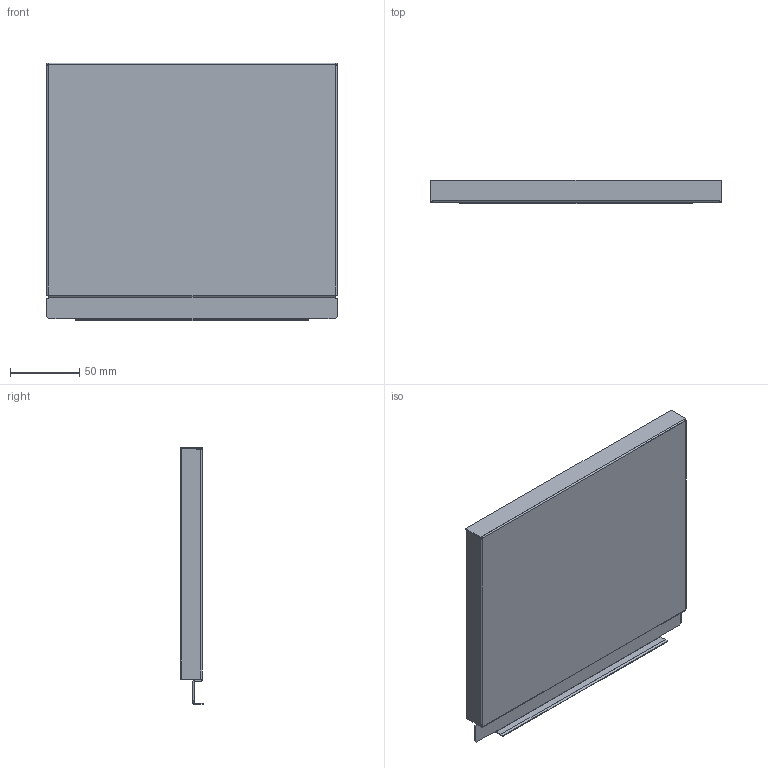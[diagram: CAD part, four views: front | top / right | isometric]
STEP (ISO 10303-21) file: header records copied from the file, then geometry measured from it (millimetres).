
FILE_DESCRIPTION (( 'STEP AP214' ), '1' );
FILE_NAME ('_STRW_H186_KAB_300.step', '2010-08-24T14:40:22', ( 'grass' ), ( '' ), 'SwSTEP 2.0', 'SolidWorks 2009', '' );
FILE_SCHEMA (( 'AUTOMOTIVE_DESIGN' ));
Length unit declared in the file: millimetre
Products named in the file (1): _STRW_H186_KAB_300
Bounding box: 210 x 17 x 186.14 mm (x, y, z)
Volume: 40937.7 mm3; surface area: 103099.8 mm2
Topology: 1 solids, 1 shells, 76 faces, 214 edges, 140 vertices
Faces by surface type: plane 54, cylinder 22
Entity records: 2472 total; most frequent: CARTESIAN_POINT 431, ORIENTED_EDGE 428, DIRECTION 412, EDGE_CURVE 214, LINE 170, VECTOR 170, VERTEX_POINT 140, AXIS2_PLACEMENT_3D 121
